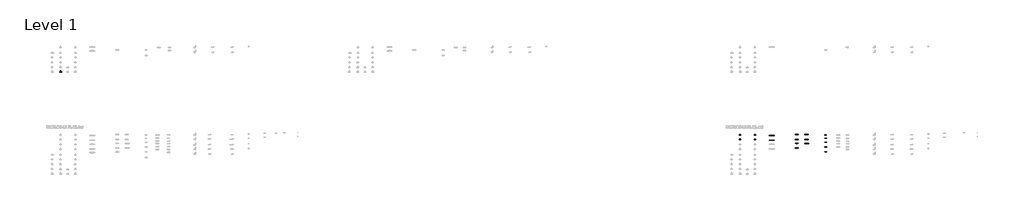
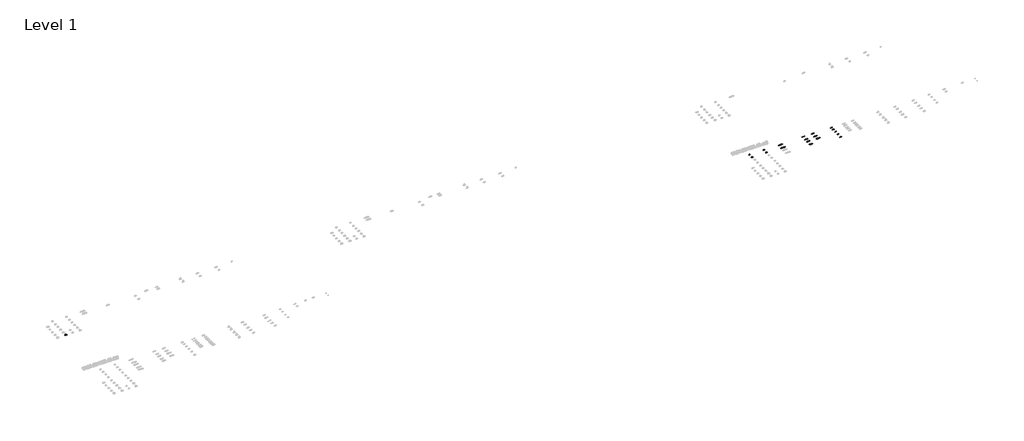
# One storey, part 8 of 78: 38 pipe segments, 19 pipe fittings.
"""IFC4 building model written with IfcOpenShell, lengths in millimetres."""

from ifc_helpers import new_model, si_unit, point, frame, frame_2d, origin, place, context, project, spatial, circle_curve, trimmed, segment, composite_curve, outline, extrude, transform, mapped, element, save
from components import pipe_fitting_e93012df, pipe_fitting_027be69e, pipe_fitting_7e3be5b8, pipe_fitting_5ae7c970, pipe_fitting_e97a97d3, pipe_fitting_8fb58d5f, pipe_fitting_db17a53a, pipe_fitting_d92d4423, pipe_fitting_47d0521d, pipe_fitting_1d22680d, pipe_fitting_5e3c5755, pipe_fitting_f5731c1c, pipe_fitting_0b32e4b0, pipe_fitting_0562571e, pipe_fitting_d14a7251, pipe_fitting_38e91122, pipe_fitting_ee510fd7, pipe_fitting_a999c26e, pipe_fitting_b01d00d0

model = new_model("IFC4")

# Units and contexts
model_context = context("Model", 3, world=origin())
ifc_project = project(units=[si_unit("LENGTHUNIT", "METRE", prefix="MILLI")], contexts=[model_context])

# Site, building, storey
site = spatial("IfcSite", under=ifc_project)
building = spatial("IfcBuilding", under=site)
storey = spatial("IfcBuildingStorey", under=building, Name="Level 1", Elevation=0.0)

# Pipe fittings
placement = place(None, origin())
pipe_fitting_shape = pipe_fitting_e93012df(model_context)
element("IfcPipeFitting", 1, ObjectType="FASTLOC_Adapter_LX, with external thread : FSL A C external PL", at=placement, inside=storey, context=model_context, shape_type="MappedRepresentation", body=[
    mapped(pipe_fitting_shape, transform((63526.3785179, -35535.7057457, 0.0), x_axis=(1.0, 0.0, 0.0), y_axis=(0.0, 1.0, 0.0), z_axis=(0.0, 0.0, 1.0))),
])
pipe_fitting_2_shape = pipe_fitting_027be69e(model_context)
element("IfcPipeFitting", 2, ObjectType="FASTLOC_Coupling equal LX : FSL C LX PL", at=placement, inside=storey, context=model_context, shape_type="MappedRepresentation", body=[
    mapped(pipe_fitting_2_shape, transform((61088.3790161, -35505.8821283, 0.0), x_axis=(1.0, 0.0, 0.0), y_axis=(0.0, 1.0, 0.0), z_axis=(0.0, 0.0, 1.0))),
])
pipe_fitting_3_shape = pipe_fitting_7e3be5b8(model_context)
element("IfcPipeFitting", 3, ObjectType="FASTLOC_T-piece_LX : FSL T-Piece LX FR", at=placement, inside=storey, context=model_context, shape_type="MappedRepresentation", body=[
    mapped(pipe_fitting_3_shape, transform((426.7498072, -30360.2405791, 0.0), x_axis=(1.0, 0.0, 0.0), y_axis=(0.0, 1.0, 0.0), z_axis=(0.0, 0.0, 1.0))),
])
pipe_fitting_4_shape = pipe_fitting_5ae7c970(model_context)
element("IfcPipeFitting", 4, ObjectType="FASTLOC_T-piece_LX : FSL T-Piece LX PL", at=placement, inside=storey, context=model_context, shape_type="MappedRepresentation", body=[
    mapped(pipe_fitting_4_shape, transform((56426.7498072, -35540.2405791, 0.0), x_axis=(1.0, 0.0, 0.0), y_axis=(0.0, 1.0, 0.0), z_axis=(0.0, 0.0, 1.0))),
])
pipe_fitting_5_shape = pipe_fitting_e97a97d3(model_context)
element("IfcPipeFitting", 5, ObjectType="FASTLOC_T-piece_LX : FSL T-Piece LX PL", at=placement, inside=storey, context=model_context, shape_type="MappedRepresentation", body=[
    mapped(pipe_fitting_5_shape, transform((56426.7498072, -35920.2405791, 0.0), x_axis=(1.0, 0.0, 0.0), y_axis=(0.0, 1.0, 0.0), z_axis=(0.0, 0.0, 1.0))),
])
pipe_fitting_6_shape = pipe_fitting_8fb58d5f(model_context)
element("IfcPipeFitting", 6, ObjectType="FASTLOC_T-piece_LX : FSL T-Piece LX PL", at=placement, inside=storey, context=model_context, shape_type="MappedRepresentation", body=[
    mapped(pipe_fitting_6_shape, transform((57646.7498072, -35540.2405791, 0.0), x_axis=(1.0, 0.0, 0.0), y_axis=(0.0, 1.0, 0.0), z_axis=(0.0, 0.0, 1.0))),
])
pipe_fitting_7_shape = pipe_fitting_db17a53a(model_context)
element("IfcPipeFitting", 7, ObjectType="FASTLOC_T-piece_LX : FSL T-Piece LX PL", at=placement, inside=storey, context=model_context, shape_type="MappedRepresentation", body=[
    mapped(pipe_fitting_7_shape, transform((57646.7498072, -35920.2405791, 0.0), x_axis=(1.0, 0.0, 0.0), y_axis=(0.0, 1.0, 0.0), z_axis=(0.0, 0.0, 1.0))),
])
pipe_fitting_8_shape = pipe_fitting_d92d4423(model_context)
element("IfcPipeFitting", 8, ObjectType="FASTLOC_T-piece internal thread LX : FSL T thread LX PL", at=placement, inside=storey, context=model_context, shape_type="MappedRepresentation", body=[
    mapped(pipe_fitting_8_shape, transform((59036.609585, -35579.8272875, 0.0), x_axis=(1.0, 0.0, 0.0), y_axis=(0.0, 1.0, 0.0), z_axis=(0.0, 0.0, 1.0))),
])
pipe_fitting_9_shape = pipe_fitting_47d0521d(model_context)
element("IfcPipeFitting", 9, ObjectType="FASTLOC_T-piece internal thread LX : FSL T thread LX PL", at=placement, inside=storey, context=model_context, shape_type="MappedRepresentation", body=[
    mapped(pipe_fitting_9_shape, transform((59036.609585, -35979.8272875, 0.0), x_axis=(1.0, 0.0, 0.0), y_axis=(0.0, 1.0, 0.0), z_axis=(0.0, 0.0, 1.0))),
])
pipe_fitting_10_shape = pipe_fitting_1d22680d(model_context)
element("IfcPipeFitting", 10, ObjectType="FASTLOC_Coupling equal LX : FSL C LX PL", at=placement, inside=storey, context=model_context, shape_type="MappedRepresentation", body=[
    mapped(pipe_fitting_10_shape, transform((61088.3790161, -35905.8821283, 0.0), x_axis=(1.0, 0.0, 0.0), y_axis=(0.0, 1.0, 0.0), z_axis=(0.0, 0.0, 1.0))),
])
pipe_fitting_11_shape = pipe_fitting_5e3c5755(model_context)
element("IfcPipeFitting", 11, ObjectType="FASTLOC_Coupling equal LX : FSL C LX PL", at=placement, inside=storey, context=model_context, shape_type="MappedRepresentation", body=[
    mapped(pipe_fitting_11_shape, transform((61088.3790161, -36225.8821283, 0.0), x_axis=(1.0, 0.0, 0.0), y_axis=(0.0, 1.0, 0.0), z_axis=(0.0, 0.0, 1.0))),
])
pipe_fitting_12_shape = pipe_fitting_f5731c1c(model_context)
element("IfcPipeFitting", 12, ObjectType="FASTLOC_Coupling equal LX : FSL C LX PL", at=placement, inside=storey, context=model_context, shape_type="MappedRepresentation", body=[
    mapped(pipe_fitting_12_shape, transform((61088.3790161, -36625.8821283, 0.0), x_axis=(1.0, 0.0, 0.0), y_axis=(0.0, 1.0, 0.0), z_axis=(0.0, 0.0, 1.0))),
])
pipe_fitting_13_shape = pipe_fitting_0b32e4b0(model_context)
element("IfcPipeFitting", 13, ObjectType="FASTLOC_Coupling reduced LX : FSL C LX PL", at=placement, inside=storey, context=model_context, shape_type="MappedRepresentation", body=[
    mapped(pipe_fitting_13_shape, transform((61926.6928556, -35505.8821283, 0.0), x_axis=(1.0, 0.0, 0.0), y_axis=(0.0, 1.0, 0.0), z_axis=(0.0, 0.0, 1.0))),
])
pipe_fitting_14_shape = pipe_fitting_0562571e(model_context)
element("IfcPipeFitting", 14, ObjectType="FASTLOC_Coupling reduced LX : FSL C LX PL", at=placement, inside=storey, context=model_context, shape_type="MappedRepresentation", body=[
    mapped(pipe_fitting_14_shape, transform((61926.6928556, -35905.8821283, 0.0), x_axis=(1.0, 0.0, 0.0), y_axis=(0.0, 1.0, 0.0), z_axis=(0.0, 0.0, 1.0))),
])
pipe_fitting_15_shape = pipe_fitting_d14a7251(model_context)
element("IfcPipeFitting", 15, ObjectType="FASTLOC_Coupling reduced LX : FSL C LX PL", at=placement, inside=storey, context=model_context, shape_type="MappedRepresentation", body=[
    mapped(pipe_fitting_15_shape, transform((61926.6928556, -36238.3821283, 0.0), x_axis=(1.0, 0.0, 0.0), y_axis=(0.0, 1.0, 0.0), z_axis=(0.0, 0.0, 1.0))),
])
pipe_fitting_16_shape = pipe_fitting_38e91122(model_context)
element("IfcPipeFitting", 16, ObjectType="FASTLOC_Adapter_LX, with external thread : FSL A C external PL", at=placement, inside=storey, context=model_context, shape_type="MappedRepresentation", body=[
    mapped(pipe_fitting_16_shape, transform((63526.8953131, -35814.2068389, 0.0), x_axis=(1.0, 0.0, 0.0), y_axis=(0.0, 1.0, 0.0), z_axis=(0.0, 0.0, 1.0))),
])
pipe_fitting_17_shape = pipe_fitting_ee510fd7(model_context)
element("IfcPipeFitting", 17, ObjectType="FASTLOC_Adapter_LX, with external thread : FSL A C external PL", at=placement, inside=storey, context=model_context, shape_type="MappedRepresentation", body=[
    mapped(pipe_fitting_17_shape, transform((63526.8953131, -36144.2068389, 0.0), x_axis=(1.0, 0.0, 0.0), y_axis=(0.0, 1.0, 0.0), z_axis=(0.0, 0.0, 1.0))),
])
pipe_fitting_18_shape = pipe_fitting_a999c26e(model_context)
element("IfcPipeFitting", 18, ObjectType="FASTLOC_Adapter_LX, with external thread : FSL A C external PL", at=placement, inside=storey, context=model_context, shape_type="MappedRepresentation", body=[
    mapped(pipe_fitting_18_shape, transform((63526.8953131, -36524.2068389, 0.0), x_axis=(1.0, 0.0, 0.0), y_axis=(0.0, 1.0, 0.0), z_axis=(0.0, 0.0, 1.0))),
])
pipe_fitting_19_shape = pipe_fitting_b01d00d0(model_context)
element("IfcPipeFitting", 19, ObjectType="FASTLOC_Adapter_LX, with external thread : FSL A C external PL", at=placement, inside=storey, context=model_context, shape_type="MappedRepresentation", body=[
    mapped(pipe_fitting_19_shape, transform((63526.8953131, -36924.2068389, 0.0), x_axis=(1.0, 0.0, 0.0), y_axis=(0.0, 1.0, 0.0), z_axis=(0.0, 0.0, 1.0))),
])

# Pipe segments
element("IfcPipeSegment", 20, ObjectType="FASTLOC LX ML FR bar", at=placement, inside=storey, context=model_context, shape_type="SweptSolid", body=[
    extrude(outline(composite_curve([segment(trimmed(circle_curve(frame_2d((-30360.2405791, 0.0)), 20.0), [point((-30380.2405791, 0.0))], [point((-30360.2405791, 20.0))], False, "CARTESIAN"), True, "CONTINUOUS"), segment(trimmed(circle_curve(frame_2d((-30360.2405791, 0.0)), 20.0), [point((-30360.2405791, 20.0))], [point((-30340.2405791, 0.0))], False, "CARTESIAN"), True, "CONTINUOUS"), segment(trimmed(circle_curve(frame_2d((-30360.2405791, 0.0)), 20.0), [point((-30340.2405791, 0.0))], [point((-30360.2405791, -20.0))], False, "CARTESIAN"), True, "CONTINUOUS"), segment(trimmed(circle_curve(frame_2d((-30360.2405791, 0.0)), 20.0), [point((-30360.2405791, -20.0))], [point((-30380.2405791, 0.0))], False, "CARTESIAN"), True, "CONTINUOUS")], self_intersect=False)), frame((455.3498072, 0.0, 0.0), z_axis=(1.0, 0.0, 0.0), x_axis=(0.0, 1.0, 0.0)), (0.0, 0.0, 1.0), 52.8),
])
element("IfcPipeSegment", 21, ObjectType="FASTLOC LX ML FR bar", at=placement, inside=storey, context=model_context, shape_type="SweptSolid", body=[
    extrude(outline(composite_curve([segment(trimmed(circle_curve(frame_2d((-30360.2405791, 0.0)), 20.0), [point((-30340.2405791, 0.0))], [point((-30360.2405791, -20.0))], False, "CARTESIAN"), True, "CONTINUOUS"), segment(trimmed(circle_curve(frame_2d((-30360.2405791, 0.0)), 20.0), [point((-30360.2405791, -20.0))], [point((-30380.2405791, 0.0))], False, "CARTESIAN"), True, "CONTINUOUS"), segment(trimmed(circle_curve(frame_2d((-30360.2405791, 0.0)), 20.0), [point((-30380.2405791, 0.0))], [point((-30360.2405791, 20.0))], False, "CARTESIAN"), True, "CONTINUOUS"), segment(trimmed(circle_curve(frame_2d((-30360.2405791, 0.0)), 20.0), [point((-30360.2405791, 20.0))], [point((-30340.2405791, 0.0))], False, "CARTESIAN"), True, "CONTINUOUS")], self_intersect=False)), frame((345.3498072, 0.0, 0.0), z_axis=(1.0, 0.0, 0.0), x_axis=(0.0, 1.0, 0.0)), (0.0, 0.0, 1.0), 52.8),
])
element("IfcPipeSegment", 22, ObjectType="FASTLOC LX ML FR bar", at=placement, inside=storey, context=model_context, shape_type="SweptSolid", body=[
    extrude(outline(composite_curve([segment(trimmed(circle_curve(frame_2d((0.0, 426.7498072)), 16.0), [point((0.0, 442.7498072))], [point((16.0, 426.7498072))], False, "CARTESIAN"), True, "CONTINUOUS"), segment(trimmed(circle_curve(frame_2d((0.0, 426.7498072)), 16.0), [point((16.0, 426.7498072))], [point((0.0, 410.7498072))], False, "CARTESIAN"), True, "CONTINUOUS"), segment(trimmed(circle_curve(frame_2d((0.0, 426.7498072)), 16.0), [point((0.0, 410.7498072))], [point((-16.0, 426.7498072))], False, "CARTESIAN"), True, "CONTINUOUS"), segment(trimmed(circle_curve(frame_2d((0.0, 426.7498072)), 16.0), [point((-16.0, 426.7498072))], [point((0.0, 442.7498072))], False, "CARTESIAN"), True, "CONTINUOUS")], self_intersect=False)), frame((0.0, -30317.4405791, 0.0), z_axis=(0.0, 1.0, 0.0), x_axis=(0.0, 0.0, 1.0)), (0.0, 0.0, 1.0), 64.8),
])
element("IfcPipeSegment", 23, ObjectType="FASTLOC LX ML PL coil", at=placement, inside=storey, context=model_context, shape_type="SweptSolid", body=[
    extrude(outline(composite_curve([segment(trimmed(circle_curve(frame_2d((-35540.2405791, 0.0)), 8.0), [point((-35548.2405791, 0.0))], [point((-35540.2405791, 8.0))], False, "CARTESIAN"), True, "CONTINUOUS"), segment(trimmed(circle_curve(frame_2d((-35540.2405791, 0.0)), 8.0), [point((-35540.2405791, 8.0))], [point((-35532.2405791, 0.0))], False, "CARTESIAN"), True, "CONTINUOUS"), segment(trimmed(circle_curve(frame_2d((-35540.2405791, 0.0)), 8.0), [point((-35532.2405791, 0.0))], [point((-35540.2405791, -8.0))], False, "CARTESIAN"), True, "CONTINUOUS"), segment(trimmed(circle_curve(frame_2d((-35540.2405791, 0.0)), 8.0), [point((-35540.2405791, -8.0))], [point((-35548.2405791, 0.0))], False, "CARTESIAN"), True, "CONTINUOUS")], self_intersect=False)), frame((56442.0498072, 0.0, 0.0), z_axis=(1.0, 0.0, 0.0), x_axis=(0.0, 1.0, 0.0)), (0.0, 0.0, 1.0), 46.7),
])
element("IfcPipeSegment", 24, ObjectType="FASTLOC LX ML PL coil", at=placement, inside=storey, context=model_context, shape_type="SweptSolid", body=[
    extrude(outline(composite_curve([segment(trimmed(circle_curve(frame_2d((-35540.2405791, 0.0)), 8.0), [point((-35532.2405791, 0.0))], [point((-35540.2405791, -8.0))], False, "CARTESIAN"), True, "CONTINUOUS"), segment(trimmed(circle_curve(frame_2d((-35540.2405791, 0.0)), 8.0), [point((-35540.2405791, -8.0))], [point((-35548.2405791, 0.0))], False, "CARTESIAN"), True, "CONTINUOUS"), segment(trimmed(circle_curve(frame_2d((-35540.2405791, 0.0)), 8.0), [point((-35548.2405791, 0.0))], [point((-35540.2405791, 8.0))], False, "CARTESIAN"), True, "CONTINUOUS"), segment(trimmed(circle_curve(frame_2d((-35540.2405791, 0.0)), 8.0), [point((-35540.2405791, 8.0))], [point((-35532.2405791, 0.0))], False, "CARTESIAN"), True, "CONTINUOUS")], self_intersect=False)), frame((56364.7498072, 0.0, 0.0), z_axis=(1.0, 0.0, 0.0), x_axis=(0.0, 1.0, 0.0)), (0.0, 0.0, 1.0), 46.7),
])
element("IfcPipeSegment", 25, ObjectType="FASTLOC LX ML PL coil", at=placement, inside=storey, context=model_context, shape_type="SweptSolid", body=[
    extrude(outline(composite_curve([segment(trimmed(circle_curve(frame_2d((0.0, 56426.7498072)), 8.0), [point((0.0, 56434.7498072))], [point((8.0, 56426.7498072))], False, "CARTESIAN"), True, "CONTINUOUS"), segment(trimmed(circle_curve(frame_2d((0.0, 56426.7498072)), 8.0), [point((8.0, 56426.7498072))], [point((0.0, 56418.7498072))], False, "CARTESIAN"), True, "CONTINUOUS"), segment(trimmed(circle_curve(frame_2d((0.0, 56426.7498072)), 8.0), [point((0.0, 56418.7498072))], [point((-8.0, 56426.7498072))], False, "CARTESIAN"), True, "CONTINUOUS"), segment(trimmed(circle_curve(frame_2d((0.0, 56426.7498072)), 8.0), [point((-8.0, 56426.7498072))], [point((0.0, 56434.7498072))], False, "CARTESIAN"), True, "CONTINUOUS")], self_intersect=False)), frame((0.0, -35513.9405791, 0.0), z_axis=(0.0, 1.0, 0.0), x_axis=(0.0, 0.0, 1.0)), (0.0, 0.0, 1.0), 46.0),
])
element("IfcPipeSegment", 26, ObjectType="FASTLOC LX ML PL coil", at=placement, inside=storey, context=model_context, shape_type="SweptSolid", body=[
    extrude(outline(composite_curve([segment(trimmed(circle_curve(frame_2d((-35920.2405791, 0.0)), 12.5), [point((-35932.7405791, 0.0))], [point((-35920.2405791, 12.5))], False, "CARTESIAN"), True, "CONTINUOUS"), segment(trimmed(circle_curve(frame_2d((-35920.2405791, 0.0)), 12.5), [point((-35920.2405791, 12.5))], [point((-35907.7405791, 0.0))], False, "CARTESIAN"), True, "CONTINUOUS"), segment(trimmed(circle_curve(frame_2d((-35920.2405791, 0.0)), 12.5), [point((-35907.7405791, 0.0))], [point((-35920.2405791, -12.5))], False, "CARTESIAN"), True, "CONTINUOUS"), segment(trimmed(circle_curve(frame_2d((-35920.2405791, 0.0)), 12.5), [point((-35920.2405791, -12.5))], [point((-35932.7405791, 0.0))], False, "CARTESIAN"), True, "CONTINUOUS")], self_intersect=False)), frame((56442.9498072, 0.0, 0.0), z_axis=(1.0, 0.0, 0.0), x_axis=(0.0, 1.0, 0.0)), (0.0, 0.0, 1.0), 45.8),
])
element("IfcPipeSegment", 27, ObjectType="FASTLOC LX ML PL coil", at=placement, inside=storey, context=model_context, shape_type="SweptSolid", body=[
    extrude(outline(composite_curve([segment(trimmed(circle_curve(frame_2d((-35920.2405791, 0.0)), 12.5), [point((-35907.7405791, 0.0))], [point((-35920.2405791, -12.5))], False, "CARTESIAN"), True, "CONTINUOUS"), segment(trimmed(circle_curve(frame_2d((-35920.2405791, 0.0)), 12.5), [point((-35920.2405791, -12.5))], [point((-35932.7405791, 0.0))], False, "CARTESIAN"), True, "CONTINUOUS"), segment(trimmed(circle_curve(frame_2d((-35920.2405791, 0.0)), 12.5), [point((-35932.7405791, 0.0))], [point((-35920.2405791, 12.5))], False, "CARTESIAN"), True, "CONTINUOUS"), segment(trimmed(circle_curve(frame_2d((-35920.2405791, 0.0)), 12.5), [point((-35920.2405791, 12.5))], [point((-35907.7405791, 0.0))], False, "CARTESIAN"), True, "CONTINUOUS")], self_intersect=False)), frame((56364.7498072, 0.0, 0.0), z_axis=(1.0, 0.0, 0.0), x_axis=(0.0, 1.0, 0.0)), (0.0, 0.0, 1.0), 45.8),
])
element("IfcPipeSegment", 28, ObjectType="FASTLOC LX ML PL coil", at=placement, inside=storey, context=model_context, shape_type="SweptSolid", body=[
    extrude(outline(composite_curve([segment(trimmed(circle_curve(frame_2d((0.0, 56426.7498072)), 8.0), [point((0.0, 56434.7498072))], [point((8.0, 56426.7498072))], False, "CARTESIAN"), True, "CONTINUOUS"), segment(trimmed(circle_curve(frame_2d((0.0, 56426.7498072)), 8.0), [point((8.0, 56426.7498072))], [point((0.0, 56418.7498072))], False, "CARTESIAN"), True, "CONTINUOUS"), segment(trimmed(circle_curve(frame_2d((0.0, 56426.7498072)), 8.0), [point((0.0, 56418.7498072))], [point((-8.0, 56426.7498072))], False, "CARTESIAN"), True, "CONTINUOUS"), segment(trimmed(circle_curve(frame_2d((0.0, 56426.7498072)), 8.0), [point((-8.0, 56426.7498072))], [point((0.0, 56434.7498072))], False, "CARTESIAN"), True, "CONTINUOUS")], self_intersect=False)), frame((0.0, -35891.2405791, 0.0), z_axis=(0.0, 1.0, 0.0), x_axis=(0.0, 0.0, 1.0)), (0.0, 0.0, 1.0), 43.3),
])
element("IfcPipeSegment", 29, ObjectType="FASTLOC LX ML PL coil", at=placement, inside=storey, context=model_context, shape_type="SweptSolid", body=[
    extrude(outline(composite_curve([segment(trimmed(circle_curve(frame_2d((-35540.2405791, 0.0)), 8.0), [point((-35548.2405791, 0.0))], [point((-35540.2405791, 8.0))], False, "CARTESIAN"), True, "CONTINUOUS"), segment(trimmed(circle_curve(frame_2d((-35540.2405791, 0.0)), 8.0), [point((-35540.2405791, 8.0))], [point((-35532.2405791, 0.0))], False, "CARTESIAN"), True, "CONTINUOUS"), segment(trimmed(circle_curve(frame_2d((-35540.2405791, 0.0)), 8.0), [point((-35532.2405791, 0.0))], [point((-35540.2405791, -8.0))], False, "CARTESIAN"), True, "CONTINUOUS"), segment(trimmed(circle_curve(frame_2d((-35540.2405791, 0.0)), 8.0), [point((-35540.2405791, -8.0))], [point((-35548.2405791, 0.0))], False, "CARTESIAN"), True, "CONTINUOUS")], self_intersect=False)), frame((57661.8498072, 0.0, 0.0), z_axis=(1.0, 0.0, 0.0), x_axis=(0.0, 1.0, 0.0)), (0.0, 0.0, 1.0), 46.9),
])
element("IfcPipeSegment", 30, ObjectType="FASTLOC LX ML PL coil", at=placement, inside=storey, context=model_context, shape_type="SweptSolid", body=[
    extrude(outline(composite_curve([segment(trimmed(circle_curve(frame_2d((-35540.2405791, 0.0)), 8.0), [point((-35532.2405791, 0.0))], [point((-35540.2405791, -8.0))], False, "CARTESIAN"), True, "CONTINUOUS"), segment(trimmed(circle_curve(frame_2d((-35540.2405791, 0.0)), 8.0), [point((-35540.2405791, -8.0))], [point((-35548.2405791, 0.0))], False, "CARTESIAN"), True, "CONTINUOUS"), segment(trimmed(circle_curve(frame_2d((-35540.2405791, 0.0)), 8.0), [point((-35548.2405791, 0.0))], [point((-35540.2405791, 8.0))], False, "CARTESIAN"), True, "CONTINUOUS"), segment(trimmed(circle_curve(frame_2d((-35540.2405791, 0.0)), 8.0), [point((-35540.2405791, 8.0))], [point((-35532.2405791, 0.0))], False, "CARTESIAN"), True, "CONTINUOUS")], self_intersect=False)), frame((57584.7498072, 0.0, 0.0), z_axis=(1.0, 0.0, 0.0), x_axis=(0.0, 1.0, 0.0)), (0.0, 0.0, 1.0), 46.5),
])
element("IfcPipeSegment", 31, ObjectType="FASTLOC LX ML PL coil", at=placement, inside=storey, context=model_context, shape_type="SweptSolid", body=[
    extrude(outline(composite_curve([segment(trimmed(circle_curve(frame_2d((0.0, 57646.7498072)), 8.0), [point((0.0, 57654.7498072))], [point((8.0, 57646.7498072))], False, "CARTESIAN"), True, "CONTINUOUS"), segment(trimmed(circle_curve(frame_2d((0.0, 57646.7498072)), 8.0), [point((8.0, 57646.7498072))], [point((0.0, 57638.7498072))], False, "CARTESIAN"), True, "CONTINUOUS"), segment(trimmed(circle_curve(frame_2d((0.0, 57646.7498072)), 8.0), [point((0.0, 57638.7498072))], [point((-8.0, 57646.7498072))], False, "CARTESIAN"), True, "CONTINUOUS"), segment(trimmed(circle_curve(frame_2d((0.0, 57646.7498072)), 8.0), [point((-8.0, 57646.7498072))], [point((0.0, 57654.7498072))], False, "CARTESIAN"), True, "CONTINUOUS")], self_intersect=False)), frame((0.0, -35513.8405791, 0.0), z_axis=(0.0, 1.0, 0.0), x_axis=(0.0, 0.0, 1.0)), (0.0, 0.0, 1.0), 45.9),
])
element("IfcPipeSegment", 32, ObjectType="FASTLOC LX ML PL coil", at=placement, inside=storey, context=model_context, shape_type="SweptSolid", body=[
    extrude(outline(composite_curve([segment(trimmed(circle_curve(frame_2d((-35920.2405791, 0.0)), 8.0), [point((-35928.2405791, 0.0))], [point((-35920.2405791, 8.0))], False, "CARTESIAN"), True, "CONTINUOUS"), segment(trimmed(circle_curve(frame_2d((-35920.2405791, 0.0)), 8.0), [point((-35920.2405791, 8.0))], [point((-35912.2405791, 0.0))], False, "CARTESIAN"), True, "CONTINUOUS"), segment(trimmed(circle_curve(frame_2d((-35920.2405791, 0.0)), 8.0), [point((-35912.2405791, 0.0))], [point((-35920.2405791, -8.0))], False, "CARTESIAN"), True, "CONTINUOUS"), segment(trimmed(circle_curve(frame_2d((-35920.2405791, 0.0)), 8.0), [point((-35920.2405791, -8.0))], [point((-35928.2405791, 0.0))], False, "CARTESIAN"), True, "CONTINUOUS")], self_intersect=False)), frame((57661.8498072, 0.0, 0.0), z_axis=(1.0, 0.0, 0.0), x_axis=(0.0, 1.0, 0.0)), (0.0, 0.0, 1.0), 46.9),
])
element("IfcPipeSegment", 33, ObjectType="FASTLOC LX ML PL coil", at=placement, inside=storey, context=model_context, shape_type="SweptSolid", body=[
    extrude(outline(composite_curve([segment(trimmed(circle_curve(frame_2d((-35920.2405791, 0.0)), 12.5), [point((-35907.7405791, 0.0))], [point((-35920.2405791, -12.5))], False, "CARTESIAN"), True, "CONTINUOUS"), segment(trimmed(circle_curve(frame_2d((-35920.2405791, 0.0)), 12.5), [point((-35920.2405791, -12.5))], [point((-35932.7405791, 0.0))], False, "CARTESIAN"), True, "CONTINUOUS"), segment(trimmed(circle_curve(frame_2d((-35920.2405791, 0.0)), 12.5), [point((-35932.7405791, 0.0))], [point((-35920.2405791, 12.5))], False, "CARTESIAN"), True, "CONTINUOUS"), segment(trimmed(circle_curve(frame_2d((-35920.2405791, 0.0)), 12.5), [point((-35920.2405791, 12.5))], [point((-35907.7405791, 0.0))], False, "CARTESIAN"), True, "CONTINUOUS")], self_intersect=False)), frame((57584.7498072, 0.0, 0.0), z_axis=(1.0, 0.0, 0.0), x_axis=(0.0, 1.0, 0.0)), (0.0, 0.0, 1.0), 45.6),
])
element("IfcPipeSegment", 34, ObjectType="FASTLOC LX ML PL coil", at=placement, inside=storey, context=model_context, shape_type="SweptSolid", body=[
    extrude(outline(composite_curve([segment(trimmed(circle_curve(frame_2d((0.0, 57646.7498072)), 8.0), [point((0.0, 57654.7498072))], [point((8.0, 57646.7498072))], False, "CARTESIAN"), True, "CONTINUOUS"), segment(trimmed(circle_curve(frame_2d((0.0, 57646.7498072)), 8.0), [point((8.0, 57646.7498072))], [point((0.0, 57638.7498072))], False, "CARTESIAN"), True, "CONTINUOUS"), segment(trimmed(circle_curve(frame_2d((0.0, 57646.7498072)), 8.0), [point((0.0, 57638.7498072))], [point((-8.0, 57646.7498072))], False, "CARTESIAN"), True, "CONTINUOUS"), segment(trimmed(circle_curve(frame_2d((0.0, 57646.7498072)), 8.0), [point((-8.0, 57646.7498072))], [point((0.0, 57654.7498072))], False, "CARTESIAN"), True, "CONTINUOUS")], self_intersect=False)), frame((0.0, -35891.1405791, 0.0), z_axis=(0.0, 1.0, 0.0), x_axis=(0.0, 0.0, 1.0)), (0.0, 0.0, 1.0), 43.2),
])
element("IfcPipeSegment", 35, ObjectType="FASTLOC LX ML PL coil", at=placement, inside=storey, context=model_context, shape_type="SweptSolid", body=[
    extrude(outline(composite_curve([segment(trimmed(circle_curve(frame_2d((-35579.8272875, 0.0)), 8.0), [point((-35587.8272875, 0.0))], [point((-35579.8272875, 8.0))], False, "CARTESIAN"), True, "CONTINUOUS"), segment(trimmed(circle_curve(frame_2d((-35579.8272875, 0.0)), 8.0), [point((-35579.8272875, 8.0))], [point((-35571.8272875, 0.0))], False, "CARTESIAN"), True, "CONTINUOUS"), segment(trimmed(circle_curve(frame_2d((-35579.8272875, 0.0)), 8.0), [point((-35571.8272875, 0.0))], [point((-35579.8272875, -8.0))], False, "CARTESIAN"), True, "CONTINUOUS"), segment(trimmed(circle_curve(frame_2d((-35579.8272875, 0.0)), 8.0), [point((-35579.8272875, -8.0))], [point((-35587.8272875, 0.0))], False, "CARTESIAN"), True, "CONTINUOUS")], self_intersect=False)), frame((59058.609585, 0.0, 0.0), z_axis=(1.0, 0.0, 0.0), x_axis=(0.0, 1.0, 0.0)), (0.0, 0.0, 1.0), 170.0),
])
element("IfcPipeSegment", 36, ObjectType="FASTLOC LX ML PL coil", at=placement, inside=storey, context=model_context, shape_type="SweptSolid", body=[
    extrude(outline(composite_curve([segment(trimmed(circle_curve(frame_2d((-35579.8272875, 0.0)), 8.0), [point((-35571.8272875, 0.0))], [point((-35579.8272875, -8.0))], False, "CARTESIAN"), True, "CONTINUOUS"), segment(trimmed(circle_curve(frame_2d((-35579.8272875, 0.0)), 8.0), [point((-35579.8272875, -8.0))], [point((-35587.8272875, 0.0))], False, "CARTESIAN"), True, "CONTINUOUS"), segment(trimmed(circle_curve(frame_2d((-35579.8272875, 0.0)), 8.0), [point((-35587.8272875, 0.0))], [point((-35579.8272875, 8.0))], False, "CARTESIAN"), True, "CONTINUOUS"), segment(trimmed(circle_curve(frame_2d((-35579.8272875, 0.0)), 8.0), [point((-35579.8272875, 8.0))], [point((-35571.8272875, 0.0))], False, "CARTESIAN"), True, "CONTINUOUS")], self_intersect=False)), frame((58849.609585, 0.0, 0.0), z_axis=(1.0, 0.0, 0.0), x_axis=(0.0, 1.0, 0.0)), (0.0, 0.0, 1.0), 165.0),
])
element("IfcPipeSegment", 37, ObjectType="FASTLOC LX ML PL coil", at=placement, inside=storey, context=model_context, shape_type="SweptSolid", body=[
    extrude(outline(composite_curve([segment(trimmed(circle_curve(frame_2d((-35979.8272875, 0.0)), 8.0), [point((-35987.8272875, 0.0))], [point((-35979.8272875, 8.0))], False, "CARTESIAN"), True, "CONTINUOUS"), segment(trimmed(circle_curve(frame_2d((-35979.8272875, 0.0)), 8.0), [point((-35979.8272875, 8.0))], [point((-35971.8272875, 0.0))], False, "CARTESIAN"), True, "CONTINUOUS"), segment(trimmed(circle_curve(frame_2d((-35979.8272875, 0.0)), 8.0), [point((-35971.8272875, 0.0))], [point((-35979.8272875, -8.0))], False, "CARTESIAN"), True, "CONTINUOUS"), segment(trimmed(circle_curve(frame_2d((-35979.8272875, 0.0)), 8.0), [point((-35979.8272875, -8.0))], [point((-35987.8272875, 0.0))], False, "CARTESIAN"), True, "CONTINUOUS")], self_intersect=False)), frame((59059.109585, 0.0, 0.0), z_axis=(1.0, 0.0, 0.0), x_axis=(0.0, 1.0, 0.0)), (0.0, 0.0, 1.0), 169.5),
])
element("IfcPipeSegment", 38, ObjectType="FASTLOC LX ML PL coil", at=placement, inside=storey, context=model_context, shape_type="SweptSolid", body=[
    extrude(outline(composite_curve([segment(trimmed(circle_curve(frame_2d((-35979.8272875, 0.0)), 8.0), [point((-35971.8272875, 0.0))], [point((-35979.8272875, -8.0))], False, "CARTESIAN"), True, "CONTINUOUS"), segment(trimmed(circle_curve(frame_2d((-35979.8272875, 0.0)), 8.0), [point((-35979.8272875, -8.0))], [point((-35987.8272875, 0.0))], False, "CARTESIAN"), True, "CONTINUOUS"), segment(trimmed(circle_curve(frame_2d((-35979.8272875, 0.0)), 8.0), [point((-35987.8272875, 0.0))], [point((-35979.8272875, 8.0))], False, "CARTESIAN"), True, "CONTINUOUS"), segment(trimmed(circle_curve(frame_2d((-35979.8272875, 0.0)), 8.0), [point((-35979.8272875, 8.0))], [point((-35971.8272875, 0.0))], False, "CARTESIAN"), True, "CONTINUOUS")], self_intersect=False)), frame((58849.609585, 0.0, 0.0), z_axis=(1.0, 0.0, 0.0), x_axis=(0.0, 1.0, 0.0)), (0.0, 0.0, 1.0), 164.5),
])
element("IfcPipeSegment", 39, ObjectType="FASTLOC LX ML PL coil", at=placement, inside=storey, context=model_context, shape_type="SweptSolid", body=[
    extrude(outline(composite_curve([segment(trimmed(circle_curve(frame_2d((-35505.8821283, 0.0)), 8.0), [point((-35513.8821283, 0.0))], [point((-35505.8821283, 8.0))], False, "CARTESIAN"), True, "CONTINUOUS"), segment(trimmed(circle_curve(frame_2d((-35505.8821283, 0.0)), 8.0), [point((-35505.8821283, 8.0))], [point((-35497.8821283, 0.0))], False, "CARTESIAN"), True, "CONTINUOUS"), segment(trimmed(circle_curve(frame_2d((-35505.8821283, 0.0)), 8.0), [point((-35497.8821283, 0.0))], [point((-35505.8821283, -8.0))], False, "CARTESIAN"), True, "CONTINUOUS"), segment(trimmed(circle_curve(frame_2d((-35505.8821283, 0.0)), 8.0), [point((-35505.8821283, -8.0))], [point((-35513.8821283, 0.0))], False, "CARTESIAN"), True, "CONTINUOUS")], self_intersect=False)), frame((61095.5790161, 0.0, 0.0), z_axis=(1.0, 0.0, 0.0), x_axis=(0.0, 1.0, 0.0)), (0.0, 0.0, 1.0), 115.0),
])
element("IfcPipeSegment", 40, ObjectType="FASTLOC LX ML PL coil", at=placement, inside=storey, context=model_context, shape_type="SweptSolid", body=[
    extrude(outline(composite_curve([segment(trimmed(circle_curve(frame_2d((-35505.8821283, 0.0)), 8.0), [point((-35497.8821283, 0.0))], [point((-35505.8821283, -8.0))], False, "CARTESIAN"), True, "CONTINUOUS"), segment(trimmed(circle_curve(frame_2d((-35505.8821283, 0.0)), 8.0), [point((-35505.8821283, -8.0))], [point((-35513.8821283, 0.0))], False, "CARTESIAN"), True, "CONTINUOUS"), segment(trimmed(circle_curve(frame_2d((-35505.8821283, 0.0)), 8.0), [point((-35513.8821283, 0.0))], [point((-35505.8821283, 8.0))], False, "CARTESIAN"), True, "CONTINUOUS"), segment(trimmed(circle_curve(frame_2d((-35505.8821283, 0.0)), 8.0), [point((-35505.8821283, 8.0))], [point((-35497.8821283, 0.0))], False, "CARTESIAN"), True, "CONTINUOUS")], self_intersect=False)), frame((60961.1790161, 0.0, 0.0), z_axis=(1.0, 0.0, 0.0), x_axis=(0.0, 1.0, 0.0)), (0.0, 0.0, 1.0), 120.0),
])
element("IfcPipeSegment", 41, ObjectType="FASTLOC LX ML PL coil", at=placement, inside=storey, context=model_context, shape_type="SweptSolid", body=[
    extrude(outline(composite_curve([segment(trimmed(circle_curve(frame_2d((-35905.8821283, 0.0)), 8.0), [point((-35913.8821283, 0.0))], [point((-35905.8821283, 8.0))], False, "CARTESIAN"), True, "CONTINUOUS"), segment(trimmed(circle_curve(frame_2d((-35905.8821283, 0.0)), 8.0), [point((-35905.8821283, 8.0))], [point((-35897.8821283, 0.0))], False, "CARTESIAN"), True, "CONTINUOUS"), segment(trimmed(circle_curve(frame_2d((-35905.8821283, 0.0)), 8.0), [point((-35897.8821283, 0.0))], [point((-35905.8821283, -8.0))], False, "CARTESIAN"), True, "CONTINUOUS"), segment(trimmed(circle_curve(frame_2d((-35905.8821283, 0.0)), 8.0), [point((-35905.8821283, -8.0))], [point((-35913.8821283, 0.0))], False, "CARTESIAN"), True, "CONTINUOUS")], self_intersect=False)), frame((61095.7790161, 0.0, 0.0), z_axis=(1.0, 0.0, 0.0), x_axis=(0.0, 1.0, 0.0)), (0.0, 0.0, 1.0), 114.8),
])
element("IfcPipeSegment", 42, ObjectType="FASTLOC LX ML PL coil", at=placement, inside=storey, context=model_context, shape_type="SweptSolid", body=[
    extrude(outline(composite_curve([segment(trimmed(circle_curve(frame_2d((-35905.8821283, 0.0)), 8.0), [point((-35897.8821283, 0.0))], [point((-35905.8821283, -8.0))], False, "CARTESIAN"), True, "CONTINUOUS"), segment(trimmed(circle_curve(frame_2d((-35905.8821283, 0.0)), 8.0), [point((-35905.8821283, -8.0))], [point((-35913.8821283, 0.0))], False, "CARTESIAN"), True, "CONTINUOUS"), segment(trimmed(circle_curve(frame_2d((-35905.8821283, 0.0)), 8.0), [point((-35913.8821283, 0.0))], [point((-35905.8821283, 8.0))], False, "CARTESIAN"), True, "CONTINUOUS"), segment(trimmed(circle_curve(frame_2d((-35905.8821283, 0.0)), 8.0), [point((-35905.8821283, 8.0))], [point((-35897.8821283, 0.0))], False, "CARTESIAN"), True, "CONTINUOUS")], self_intersect=False)), frame((60961.1790161, 0.0, 0.0), z_axis=(1.0, 0.0, 0.0), x_axis=(0.0, 1.0, 0.0)), (0.0, 0.0, 1.0), 119.8),
])
element("IfcPipeSegment", 43, ObjectType="FASTLOC LX ML PL coil", at=placement, inside=storey, context=model_context, shape_type="SweptSolid", body=[
    extrude(outline(composite_curve([segment(trimmed(circle_curve(frame_2d((-36225.8821283, 0.0)), 12.5), [point((-36238.3821283, 0.0))], [point((-36225.8821283, 12.5))], False, "CARTESIAN"), True, "CONTINUOUS"), segment(trimmed(circle_curve(frame_2d((-36225.8821283, 0.0)), 12.5), [point((-36225.8821283, 12.5))], [point((-36213.3821283, 0.0))], False, "CARTESIAN"), True, "CONTINUOUS"), segment(trimmed(circle_curve(frame_2d((-36225.8821283, 0.0)), 12.5), [point((-36213.3821283, 0.0))], [point((-36225.8821283, -12.5))], False, "CARTESIAN"), True, "CONTINUOUS"), segment(trimmed(circle_curve(frame_2d((-36225.8821283, 0.0)), 12.5), [point((-36225.8821283, -12.5))], [point((-36238.3821283, 0.0))], False, "CARTESIAN"), True, "CONTINUOUS")], self_intersect=False)), frame((61096.3790161, 0.0, 0.0), z_axis=(1.0, 0.0, 0.0), x_axis=(0.0, 1.0, 0.0)), (0.0, 0.0, 1.0), 114.2),
])
element("IfcPipeSegment", 44, ObjectType="FASTLOC LX ML PL coil", at=placement, inside=storey, context=model_context, shape_type="SweptSolid", body=[
    extrude(outline(composite_curve([segment(trimmed(circle_curve(frame_2d((-36225.8821283, 0.0)), 12.5), [point((-36213.3821283, 0.0))], [point((-36225.8821283, -12.5))], False, "CARTESIAN"), True, "CONTINUOUS"), segment(trimmed(circle_curve(frame_2d((-36225.8821283, 0.0)), 12.5), [point((-36225.8821283, -12.5))], [point((-36238.3821283, 0.0))], False, "CARTESIAN"), True, "CONTINUOUS"), segment(trimmed(circle_curve(frame_2d((-36225.8821283, 0.0)), 12.5), [point((-36238.3821283, 0.0))], [point((-36225.8821283, 12.5))], False, "CARTESIAN"), True, "CONTINUOUS"), segment(trimmed(circle_curve(frame_2d((-36225.8821283, 0.0)), 12.5), [point((-36225.8821283, 12.5))], [point((-36213.3821283, 0.0))], False, "CARTESIAN"), True, "CONTINUOUS")], self_intersect=False)), frame((60961.1790161, 0.0, 0.0), z_axis=(1.0, 0.0, 0.0), x_axis=(0.0, 1.0, 0.0)), (0.0, 0.0, 1.0), 119.2),
])
element("IfcPipeSegment", 45, ObjectType="FASTLOC LX ML PL coil", at=placement, inside=storey, context=model_context, shape_type="SweptSolid", body=[
    extrude(outline(composite_curve([segment(trimmed(circle_curve(frame_2d((-36625.8821283, 0.0)), 16.0), [point((-36641.8821283, 0.0))], [point((-36625.8821283, 16.0))], False, "CARTESIAN"), True, "CONTINUOUS"), segment(trimmed(circle_curve(frame_2d((-36625.8821283, 0.0)), 16.0), [point((-36625.8821283, 16.0))], [point((-36609.8821283, 0.0))], False, "CARTESIAN"), True, "CONTINUOUS"), segment(trimmed(circle_curve(frame_2d((-36625.8821283, 0.0)), 16.0), [point((-36609.8821283, 0.0))], [point((-36625.8821283, -16.0))], False, "CARTESIAN"), True, "CONTINUOUS"), segment(trimmed(circle_curve(frame_2d((-36625.8821283, 0.0)), 16.0), [point((-36625.8821283, -16.0))], [point((-36641.8821283, 0.0))], False, "CARTESIAN"), True, "CONTINUOUS")], self_intersect=False)), frame((61098.3790161, 0.0, 0.0), z_axis=(1.0, 0.0, 0.0), x_axis=(0.0, 1.0, 0.0)), (0.0, 0.0, 1.0), 112.2),
])
element("IfcPipeSegment", 46, ObjectType="FASTLOC LX ML PL coil", at=placement, inside=storey, context=model_context, shape_type="SweptSolid", body=[
    extrude(outline(composite_curve([segment(trimmed(circle_curve(frame_2d((-36625.8821283, 0.0)), 16.0), [point((-36609.8821283, 0.0))], [point((-36625.8821283, -16.0))], False, "CARTESIAN"), True, "CONTINUOUS"), segment(trimmed(circle_curve(frame_2d((-36625.8821283, 0.0)), 16.0), [point((-36625.8821283, -16.0))], [point((-36641.8821283, 0.0))], False, "CARTESIAN"), True, "CONTINUOUS"), segment(trimmed(circle_curve(frame_2d((-36625.8821283, 0.0)), 16.0), [point((-36641.8821283, 0.0))], [point((-36625.8821283, 16.0))], False, "CARTESIAN"), True, "CONTINUOUS"), segment(trimmed(circle_curve(frame_2d((-36625.8821283, 0.0)), 16.0), [point((-36625.8821283, 16.0))], [point((-36609.8821283, 0.0))], False, "CARTESIAN"), True, "CONTINUOUS")], self_intersect=False)), frame((60961.1790161, 0.0, 0.0), z_axis=(1.0, 0.0, 0.0), x_axis=(0.0, 1.0, 0.0)), (0.0, 0.0, 1.0), 117.2),
])
element("IfcPipeSegment", 47, ObjectType="FASTLOC LX ML PL coil", at=placement, inside=storey, context=model_context, shape_type="SweptSolid", body=[
    extrude(outline(composite_curve([segment(trimmed(circle_curve(frame_2d((-35505.8821283, 0.0)), 8.0), [point((-35513.8821283, 0.0))], [point((-35505.8821283, 8.0))], False, "CARTESIAN"), True, "CONTINUOUS"), segment(trimmed(circle_curve(frame_2d((-35505.8821283, 0.0)), 8.0), [point((-35505.8821283, 8.0))], [point((-35497.8821283, 0.0))], False, "CARTESIAN"), True, "CONTINUOUS"), segment(trimmed(circle_curve(frame_2d((-35505.8821283, 0.0)), 8.0), [point((-35497.8821283, 0.0))], [point((-35505.8821283, -8.0))], False, "CARTESIAN"), True, "CONTINUOUS"), segment(trimmed(circle_curve(frame_2d((-35505.8821283, 0.0)), 8.0), [point((-35505.8821283, -8.0))], [point((-35513.8821283, 0.0))], False, "CARTESIAN"), True, "CONTINUOUS")], self_intersect=False)), frame((61932.9928556, 0.0, 0.0), z_axis=(1.0, 0.0, 0.0), x_axis=(0.0, 1.0, 0.0)), (0.0, 0.0, 1.0), 95.0),
])
element("IfcPipeSegment", 48, ObjectType="FASTLOC LX ML PL coil", at=placement, inside=storey, context=model_context, shape_type="SweptSolid", body=[
    extrude(outline(composite_curve([segment(trimmed(circle_curve(frame_2d((-35505.8821283, 0.0)), 8.0), [point((-35497.8821283, 0.0))], [point((-35505.8821283, -8.0))], False, "CARTESIAN"), True, "CONTINUOUS"), segment(trimmed(circle_curve(frame_2d((-35505.8821283, 0.0)), 8.0), [point((-35505.8821283, -8.0))], [point((-35513.8821283, 0.0))], False, "CARTESIAN"), True, "CONTINUOUS"), segment(trimmed(circle_curve(frame_2d((-35505.8821283, 0.0)), 8.0), [point((-35513.8821283, 0.0))], [point((-35505.8821283, 8.0))], False, "CARTESIAN"), True, "CONTINUOUS"), segment(trimmed(circle_curve(frame_2d((-35505.8821283, 0.0)), 8.0), [point((-35505.8821283, 8.0))], [point((-35497.8821283, 0.0))], False, "CARTESIAN"), True, "CONTINUOUS")], self_intersect=False)), frame((61752.9928556, 0.0, 0.0), z_axis=(1.0, 0.0, 0.0), x_axis=(0.0, 1.0, 0.0)), (0.0, 0.0, 1.0), 165.0),
])
element("IfcPipeSegment", 49, ObjectType="FASTLOC LX ML PL coil", at=placement, inside=storey, context=model_context, shape_type="SweptSolid", body=[
    extrude(outline(composite_curve([segment(trimmed(circle_curve(frame_2d((-35905.8821283, 0.0)), 12.5), [point((-35893.3821283, 0.0))], [point((-35905.8821283, -12.5))], False, "CARTESIAN"), True, "CONTINUOUS"), segment(trimmed(circle_curve(frame_2d((-35905.8821283, 0.0)), 12.5), [point((-35905.8821283, -12.5))], [point((-35918.3821283, 0.0))], False, "CARTESIAN"), True, "CONTINUOUS"), segment(trimmed(circle_curve(frame_2d((-35905.8821283, 0.0)), 12.5), [point((-35918.3821283, 0.0))], [point((-35905.8821283, 12.5))], False, "CARTESIAN"), True, "CONTINUOUS"), segment(trimmed(circle_curve(frame_2d((-35905.8821283, 0.0)), 12.5), [point((-35905.8821283, 12.5))], [point((-35893.3821283, 0.0))], False, "CARTESIAN"), True, "CONTINUOUS")], self_intersect=False)), frame((61752.9928556, 0.0, 0.0), z_axis=(1.0, 0.0, 0.0), x_axis=(0.0, 1.0, 0.0)), (0.0, 0.0, 1.0), 163.9),
])
element("IfcPipeSegment", 50, ObjectType="FASTLOC LX ML PL coil", at=placement, inside=storey, context=model_context, shape_type="SweptSolid", body=[
    extrude(outline(composite_curve([segment(trimmed(circle_curve(frame_2d((-35905.8821283, 0.0)), 8.0), [point((-35913.8821283, 0.0))], [point((-35905.8821283, 8.0))], False, "CARTESIAN"), True, "CONTINUOUS"), segment(trimmed(circle_curve(frame_2d((-35905.8821283, 0.0)), 8.0), [point((-35905.8821283, 8.0))], [point((-35897.8821283, 0.0))], False, "CARTESIAN"), True, "CONTINUOUS"), segment(trimmed(circle_curve(frame_2d((-35905.8821283, 0.0)), 8.0), [point((-35897.8821283, 0.0))], [point((-35905.8821283, -8.0))], False, "CARTESIAN"), True, "CONTINUOUS"), segment(trimmed(circle_curve(frame_2d((-35905.8821283, 0.0)), 8.0), [point((-35905.8821283, -8.0))], [point((-35913.8821283, 0.0))], False, "CARTESIAN"), True, "CONTINUOUS")], self_intersect=False)), frame((61932.3928556, 0.0, 0.0), z_axis=(1.0, 0.0, 0.0), x_axis=(0.0, 1.0, 0.0)), (0.0, 0.0, 1.0), 95.6),
])
element("IfcPipeSegment", 51, ObjectType="FASTLOC LX ML PL coil", at=placement, inside=storey, context=model_context, shape_type="SweptSolid", body=[
    extrude(outline(composite_curve([segment(trimmed(circle_curve(frame_2d((-35535.7057457, 0.0)), 8.0), [point((-35527.7057457, 0.0))], [point((-35535.7057457, -8.0))], False, "CARTESIAN"), True, "CONTINUOUS"), segment(trimmed(circle_curve(frame_2d((-35535.7057457, 0.0)), 8.0), [point((-35535.7057457, -8.0))], [point((-35543.7057457, 0.0))], False, "CARTESIAN"), True, "CONTINUOUS"), segment(trimmed(circle_curve(frame_2d((-35535.7057457, 0.0)), 8.0), [point((-35543.7057457, 0.0))], [point((-35535.7057457, 8.0))], False, "CARTESIAN"), True, "CONTINUOUS"), segment(trimmed(circle_curve(frame_2d((-35535.7057457, 0.0)), 8.0), [point((-35535.7057457, 8.0))], [point((-35527.7057457, 0.0))], False, "CARTESIAN"), True, "CONTINUOUS")], self_intersect=False)), frame((63402.0785179, 0.0, 0.0), z_axis=(1.0, 0.0, 0.0), x_axis=(0.0, 1.0, 0.0)), (0.0, 0.0, 1.0), 115.4),
])
element("IfcPipeSegment", 52, ObjectType="FASTLOC LX ML PL coil", at=placement, inside=storey, context=model_context, shape_type="SweptSolid", body=[
    extrude(outline(composite_curve([segment(trimmed(circle_curve(frame_2d((-35814.2068389, 0.0)), 8.0), [point((-35806.2068389, 0.0))], [point((-35814.2068389, -8.0))], False, "CARTESIAN"), True, "CONTINUOUS"), segment(trimmed(circle_curve(frame_2d((-35814.2068389, 0.0)), 8.0), [point((-35814.2068389, -8.0))], [point((-35822.2068389, 0.0))], False, "CARTESIAN"), True, "CONTINUOUS"), segment(trimmed(circle_curve(frame_2d((-35814.2068389, 0.0)), 8.0), [point((-35822.2068389, 0.0))], [point((-35814.2068389, 8.0))], False, "CARTESIAN"), True, "CONTINUOUS"), segment(trimmed(circle_curve(frame_2d((-35814.2068389, 0.0)), 8.0), [point((-35814.2068389, 8.0))], [point((-35806.2068389, 0.0))], False, "CARTESIAN"), True, "CONTINUOUS")], self_intersect=False)), frame((63402.0785179, 0.0, 0.0), z_axis=(1.0, 0.0, 0.0), x_axis=(0.0, 1.0, 0.0)), (0.0, 0.0, 1.0), 116.1167951),
])
element("IfcPipeSegment", 53, ObjectType="FASTLOC LX ML PL coil", at=placement, inside=storey, context=model_context, shape_type="SweptSolid", body=[
    extrude(outline(composite_curve([segment(trimmed(circle_curve(frame_2d((-36144.2068389, 0.0)), 8.0), [point((-36136.2068389, 0.0))], [point((-36144.2068389, -8.0))], False, "CARTESIAN"), True, "CONTINUOUS"), segment(trimmed(circle_curve(frame_2d((-36144.2068389, 0.0)), 8.0), [point((-36144.2068389, -8.0))], [point((-36152.2068389, 0.0))], False, "CARTESIAN"), True, "CONTINUOUS"), segment(trimmed(circle_curve(frame_2d((-36144.2068389, 0.0)), 8.0), [point((-36152.2068389, 0.0))], [point((-36144.2068389, 8.0))], False, "CARTESIAN"), True, "CONTINUOUS"), segment(trimmed(circle_curve(frame_2d((-36144.2068389, 0.0)), 8.0), [point((-36144.2068389, 8.0))], [point((-36136.2068389, 0.0))], False, "CARTESIAN"), True, "CONTINUOUS")], self_intersect=False)), frame((63402.0785179, 0.0, 0.0), z_axis=(1.0, 0.0, 0.0), x_axis=(0.0, 1.0, 0.0)), (0.0, 0.0, 1.0), 115.5167951),
])
element("IfcPipeSegment", 54, ObjectType="FASTLOC LX ML PL coil", at=placement, inside=storey, context=model_context, shape_type="SweptSolid", body=[
    extrude(outline(composite_curve([segment(trimmed(circle_curve(frame_2d((-36524.2068389, 0.0)), 12.5), [point((-36511.7068389, 0.0))], [point((-36524.2068389, -12.5))], False, "CARTESIAN"), True, "CONTINUOUS"), segment(trimmed(circle_curve(frame_2d((-36524.2068389, 0.0)), 12.5), [point((-36524.2068389, -12.5))], [point((-36536.7068389, 0.0))], False, "CARTESIAN"), True, "CONTINUOUS"), segment(trimmed(circle_curve(frame_2d((-36524.2068389, 0.0)), 12.5), [point((-36536.7068389, 0.0))], [point((-36524.2068389, 12.5))], False, "CARTESIAN"), True, "CONTINUOUS"), segment(trimmed(circle_curve(frame_2d((-36524.2068389, 0.0)), 12.5), [point((-36524.2068389, 12.5))], [point((-36511.7068389, 0.0))], False, "CARTESIAN"), True, "CONTINUOUS")], self_intersect=False)), frame((63402.0785179, 0.0, 0.0), z_axis=(1.0, 0.0, 0.0), x_axis=(0.0, 1.0, 0.0)), (0.0, 0.0, 1.0), 115.4167951),
])
element("IfcPipeSegment", 55, ObjectType="FASTLOC LX ML PL coil", at=placement, inside=storey, context=model_context, shape_type="SweptSolid", body=[
    extrude(outline(composite_curve([segment(trimmed(circle_curve(frame_2d((-36924.2068389, 0.0)), 16.0), [point((-36908.2068389, 0.0))], [point((-36924.2068389, -16.0))], False, "CARTESIAN"), True, "CONTINUOUS"), segment(trimmed(circle_curve(frame_2d((-36924.2068389, 0.0)), 16.0), [point((-36924.2068389, -16.0))], [point((-36940.2068389, 0.0))], False, "CARTESIAN"), True, "CONTINUOUS"), segment(trimmed(circle_curve(frame_2d((-36924.2068389, 0.0)), 16.0), [point((-36940.2068389, 0.0))], [point((-36924.2068389, 16.0))], False, "CARTESIAN"), True, "CONTINUOUS"), segment(trimmed(circle_curve(frame_2d((-36924.2068389, 0.0)), 16.0), [point((-36924.2068389, 16.0))], [point((-36908.2068389, 0.0))], False, "CARTESIAN"), True, "CONTINUOUS")], self_intersect=False)), frame((63402.0785179, 0.0, 0.0), z_axis=(1.0, 0.0, 0.0), x_axis=(0.0, 1.0, 0.0)), (0.0, 0.0, 1.0), 110.2167951),
])
element("IfcPipeSegment", 56, ObjectType="FASTLOC LX ML PL coil", at=placement, inside=storey, context=model_context, shape_type="SweptSolid", body=[
    extrude(outline(composite_curve([segment(trimmed(circle_curve(frame_2d((-36238.3821283, 0.0)), 16.0), [point((-36222.3821283, 0.0))], [point((-36238.3821283, -16.0))], False, "CARTESIAN"), True, "CONTINUOUS"), segment(trimmed(circle_curve(frame_2d((-36238.3821283, 0.0)), 16.0), [point((-36238.3821283, -16.0))], [point((-36254.3821283, 0.0))], False, "CARTESIAN"), True, "CONTINUOUS"), segment(trimmed(circle_curve(frame_2d((-36238.3821283, 0.0)), 16.0), [point((-36254.3821283, 0.0))], [point((-36238.3821283, 16.0))], False, "CARTESIAN"), True, "CONTINUOUS"), segment(trimmed(circle_curve(frame_2d((-36238.3821283, 0.0)), 16.0), [point((-36238.3821283, 16.0))], [point((-36222.3821283, 0.0))], False, "CARTESIAN"), True, "CONTINUOUS")], self_intersect=False)), frame((61752.9928556, 0.0, 0.0), z_axis=(1.0, 0.0, 0.0), x_axis=(0.0, 1.0, 0.0)), (0.0, 0.0, 1.0), 161.3),
])
element("IfcPipeSegment", 57, ObjectType="FASTLOC LX ML PL coil", at=placement, inside=storey, context=model_context, shape_type="SweptSolid", body=[
    extrude(outline(composite_curve([segment(trimmed(circle_curve(frame_2d((-36238.3821283, 0.0)), 12.5), [point((-36250.8821283, 0.0))], [point((-36238.3821283, 12.5))], False, "CARTESIAN"), True, "CONTINUOUS"), segment(trimmed(circle_curve(frame_2d((-36238.3821283, 0.0)), 12.5), [point((-36238.3821283, 12.5))], [point((-36225.8821283, 0.0))], False, "CARTESIAN"), True, "CONTINUOUS"), segment(trimmed(circle_curve(frame_2d((-36238.3821283, 0.0)), 12.5), [point((-36225.8821283, 0.0))], [point((-36238.3821283, -12.5))], False, "CARTESIAN"), True, "CONTINUOUS"), segment(trimmed(circle_curve(frame_2d((-36238.3821283, 0.0)), 12.5), [point((-36238.3821283, -12.5))], [point((-36250.8821283, 0.0))], False, "CARTESIAN"), True, "CONTINUOUS")], self_intersect=False)), frame((61932.4928556, 0.0, 0.0), z_axis=(1.0, 0.0, 0.0), x_axis=(0.0, 1.0, 0.0)), (0.0, 0.0, 1.0), 155.1),
])

save(model, "model.ifc")
